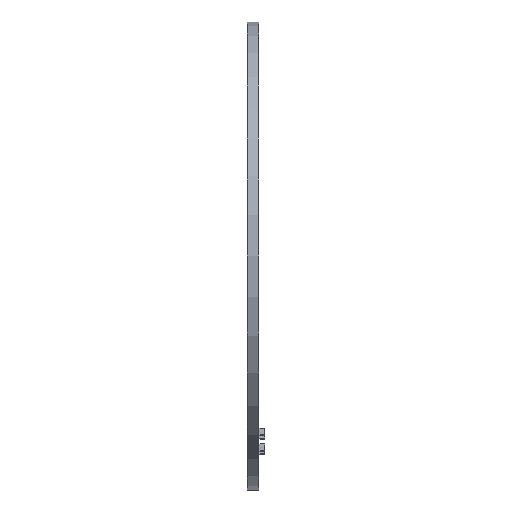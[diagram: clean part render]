
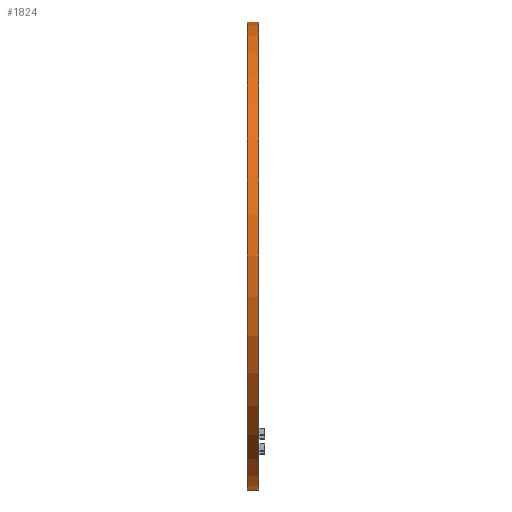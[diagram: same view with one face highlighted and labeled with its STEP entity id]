
A CAD part, left-side view. The second image highlights one B-rep face of the part: STEP entity #1824.
In plain terms, the highlighted cylindrical face has radius 32.5 mm (diameter 65 mm), a partial arc.
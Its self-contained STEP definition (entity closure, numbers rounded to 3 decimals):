
#56 = CYLINDRICAL_SURFACE ( 'NONE', #362, 32.5 ) ;
#252 = LINE ( 'NONE', #1041, #1199 ) ;
#256 = EDGE_CURVE ( 'NONE', #542, #1845, #252, .T. ) ;
#264 = ORIENTED_EDGE ( 'NONE', *, *, #901, .F. ) ;
#279 = DIRECTION ( 'NONE',  ( 0., -1., 0. ) ) ;
#322 = ORIENTED_EDGE ( 'NONE', *, *, #1737, .T. ) ;
#360 = CIRCLE ( 'NONE', #1815, 32.5 ) ;
#362 = AXIS2_PLACEMENT_3D ( 'NONE', #1273, #1860, #849 ) ;
#396 = ORIENTED_EDGE ( 'NONE', *, *, #256, .F. ) ;
#451 = VERTEX_POINT ( 'NONE', #1659 ) ;
#481 = VECTOR ( 'NONE', #279, 1000. ) ;
#542 = VERTEX_POINT ( 'NONE', #795 ) ;
#553 = DIRECTION ( 'NONE',  ( 0., -1., 0. ) ) ;
#688 = CARTESIAN_POINT ( 'NONE',  ( 0., 0., 32.5 ) ) ;
#776 = CIRCLE ( 'NONE', #1281, 32.5 ) ;
#795 = CARTESIAN_POINT ( 'NONE',  ( 0., 1.6, 32.5 ) ) ;
#849 = DIRECTION ( 'NONE',  ( 0., 0., -1. ) ) ;
#901 = EDGE_CURVE ( 'NONE', #1832, #542, #360, .T. ) ;
#939 = DIRECTION ( 'NONE',  ( 0., 0., 1. ) ) ;
#993 = DIRECTION ( 'NONE',  ( 0., 1., 0. ) ) ;
#1041 = CARTESIAN_POINT ( 'NONE',  ( 0., 1.6, 32.5 ) ) ;
#1079 = DIRECTION ( 'NONE',  ( 0., 0., 1. ) ) ;
#1144 = CARTESIAN_POINT ( 'NONE',  ( 0., 0., 0. ) ) ;
#1183 = EDGE_LOOP ( 'NONE', ( #396, #264, #322, #1386 ) ) ;
#1199 = VECTOR ( 'NONE', #553, 1000. ) ;
#1212 = CARTESIAN_POINT ( 'NONE',  ( 0., 1.6, -32.5 ) ) ;
#1235 = EDGE_CURVE ( 'NONE', #451, #1845, #776, .T. ) ;
#1273 = CARTESIAN_POINT ( 'NONE',  ( 0., 1.6, 0. ) ) ;
#1281 = AXIS2_PLACEMENT_3D ( 'NONE', #1144, #993, #1079 ) ;
#1386 = ORIENTED_EDGE ( 'NONE', *, *, #1235, .T. ) ;
#1410 = FACE_OUTER_BOUND ( 'NONE', #1183, .T. ) ;
#1452 = CARTESIAN_POINT ( 'NONE',  ( 0., 1.6, -32.5 ) ) ;
#1647 = DIRECTION ( 'NONE',  ( 0., 1., 0. ) ) ;
#1659 = CARTESIAN_POINT ( 'NONE',  ( 0., 0., -32.5 ) ) ;
#1663 = LINE ( 'NONE', #1212, #481 ) ;
#1672 = CARTESIAN_POINT ( 'NONE',  ( 0., 1.6, 0. ) ) ;
#1737 = EDGE_CURVE ( 'NONE', #1832, #451, #1663, .T. ) ;
#1815 = AXIS2_PLACEMENT_3D ( 'NONE', #1672, #1647, #939 ) ;
#1824 = ADVANCED_FACE ( 'NONE', ( #1410 ), #56, .T. ) ;
#1832 = VERTEX_POINT ( 'NONE', #1452 ) ;
#1845 = VERTEX_POINT ( 'NONE', #688 ) ;
#1860 = DIRECTION ( 'NONE',  ( 0., -1., 0. ) ) ;
